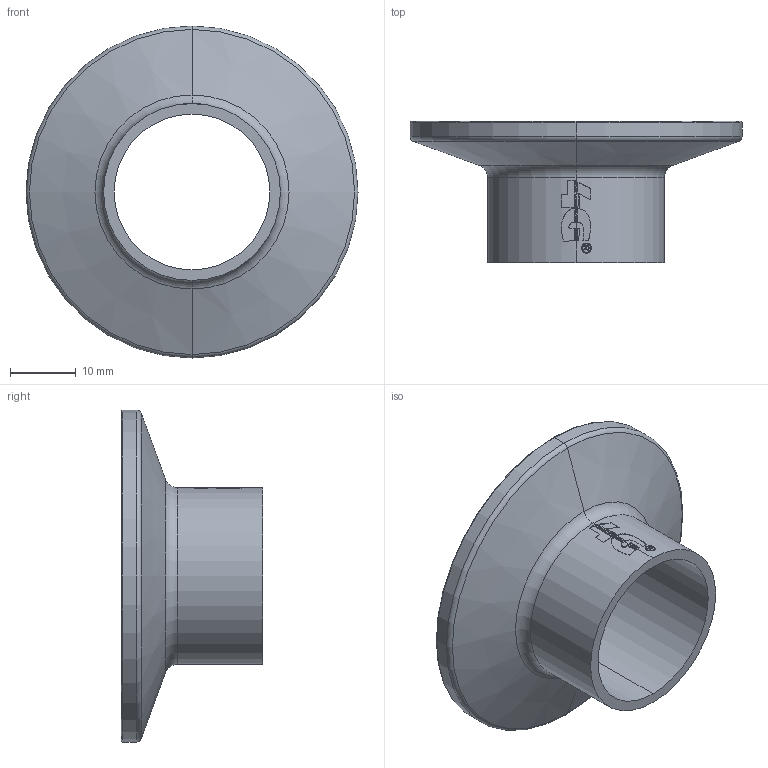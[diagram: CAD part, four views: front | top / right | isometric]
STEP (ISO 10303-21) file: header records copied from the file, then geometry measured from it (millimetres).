
FILE_DESCRIPTION((''),'2;1');
FILE_NAME('76806061700','2020-09-15T10:11:38',('alfio.taboni'),('CDM Tecnoconsulting'),'CREO PARAMETRIC BY PTC INC, 2020053','CREO PARAMETRIC BY PTC INC, 2020053','');
FILE_SCHEMA(('CONFIG_CONTROL_DESIGN','SHAPE_APPEARANCE_LAYERS_GROUPS'));
Length unit declared in the file: millimetre
Products named in the file (1): 76806061700
Bounding box: 50.5 x 21.5 x 50.5 mm (x, y, z)
Volume: 9058.7 mm3; surface area: 6620.7 mm2
Topology: 1 solids, 1 shells, 154 faces, 405 edges, 264 vertices
Faces by surface type: plane 73, extrusion 55, torus 12, cylinder 8, cone 6
Entity records: 5205 total; most frequent: CARTESIAN_POINT 1606, ORIENTED_EDGE 810, DIRECTION 555, EDGE_CURVE 405, VERTEX_POINT 264, VECTOR 255, B_SPLINE_CURVE_WITH_KNOTS 209, LINE 200
